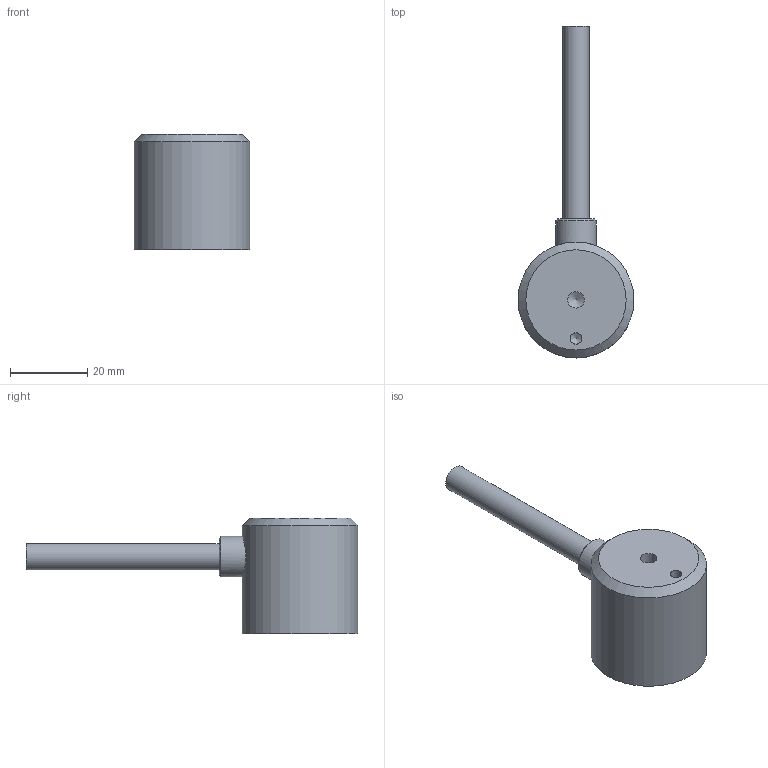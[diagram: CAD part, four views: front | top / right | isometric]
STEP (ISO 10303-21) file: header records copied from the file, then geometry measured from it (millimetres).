
FILE_DESCRIPTION(/* description */ (''),/* implementation_level */ '2;1');
FILE_NAME(/* name */ 'EMH-1-30Dx30H-S-DC24V.step',/* time_stamp */ '2023-12-15T11:39:40+09:00',/* author */ (''),/* organization */ (''),/* preprocessor_version */ 'ST-DEVELOPER v20',/* originating_system */ 'Autodesk Translation Framework v12.14.0.127',/* authorisation */ '');
FILE_SCHEMA (('AUTOMOTIVE_DESIGN { 1 0 10303 214 3 1 1 }'));
Length unit declared in the file: millimetre
Products named in the file (3): EMH-1-30Dx30H-S-DC24V; BODY; Cable
Assembly tree (2 placements, depth 2):
  EMH-1-30Dx30H-S-DC24V
    BODY
    Cable
Bounding box: 30 x 86 x 30 mm (x, y, z)
Volume: 23135.7 mm3; surface area: 5657.1 mm2
Topology: 2 solids, 2 shells, 18 faces, 32 edges, 21 vertices
Faces by surface type: plane 7, cylinder 7, cone 4
Full cylindrical faces by diameter (mm): 3 x1, 4.234 x1, 6.8 x1, 10.5 x1, 13 x1, 25 x1, 30 x1
Entity records: 580 total; most frequent: CARTESIAN_POINT 110, DIRECTION 89, ORIENTED_EDGE 60, AXIS2_PLACEMENT_3D 39, EDGE_CURVE 30, EDGE_LOOP 23, VERTEX_POINT 21, FACE_OUTER_BOUND 18
